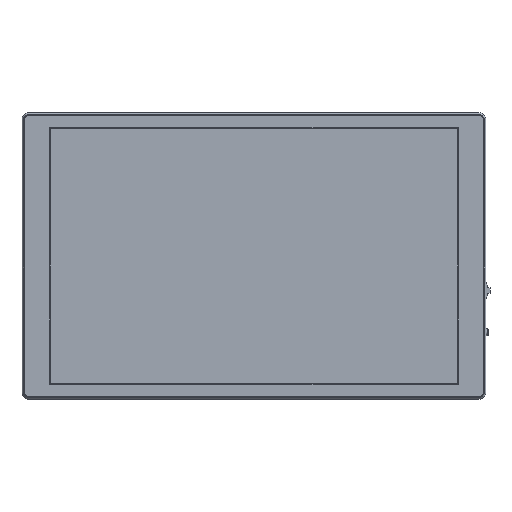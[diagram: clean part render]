
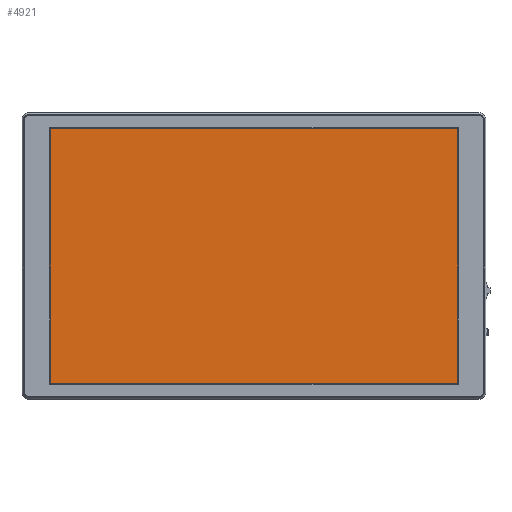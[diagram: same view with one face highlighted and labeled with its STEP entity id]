
A CAD part, top view. The second image highlights one B-rep face of the part: STEP entity #4921.
In plain terms, the highlighted planar face has unit normal (0, 0, 1).
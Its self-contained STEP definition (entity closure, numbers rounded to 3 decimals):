
#940=DIRECTION('',(0.,1.,0.));
#941=VECTOR('',#940,107.64);
#942=CARTESIAN_POINT('',(86.11,-53.82,-0.04));
#943=LINE('',#942,#941);
#944=DIRECTION('',(1.,0.,0.));
#945=VECTOR('',#944,172.22);
#946=CARTESIAN_POINT('',(-86.11,-53.82,-0.04));
#947=LINE('',#946,#945);
#948=DIRECTION('',(0.,-1.,0.));
#949=VECTOR('',#948,107.64);
#950=CARTESIAN_POINT('',(-86.11,53.82,-0.04));
#951=LINE('',#950,#949);
#952=DIRECTION('',(-1.,0.,0.));
#953=VECTOR('',#952,172.22);
#954=CARTESIAN_POINT('',(86.11,53.82,-0.04));
#955=LINE('',#954,#953);
#3806=CARTESIAN_POINT('',(86.11,-53.82,-0.04));
#3807=CARTESIAN_POINT('',(86.11,53.82,-0.04));
#3808=VERTEX_POINT('',#3806);
#3809=VERTEX_POINT('',#3807);
#3810=CARTESIAN_POINT('',(-86.11,53.82,-0.04));
#3811=VERTEX_POINT('',#3810);
#3812=CARTESIAN_POINT('',(-86.11,-53.82,-0.04));
#3813=VERTEX_POINT('',#3812);
#4910=CARTESIAN_POINT('',(0.,0.,-0.04));
#4911=DIRECTION('',(0.,0.,1.));
#4912=DIRECTION('',(1.,0.,0.));
#4913=AXIS2_PLACEMENT_3D('',#4910,#4911,#4912);
#4914=PLANE('',#4913);
#4915=ORIENTED_EDGE('',*,*,#4862,.F.);
#4916=ORIENTED_EDGE('',*,*,#4877,.F.);
#4917=ORIENTED_EDGE('',*,*,#4891,.F.);
#4918=ORIENTED_EDGE('',*,*,#4904,.F.);
#4919=EDGE_LOOP('',(#4915,#4916,#4917,#4918));
#4920=FACE_OUTER_BOUND('',#4919,.F.);
#4921=ADVANCED_FACE('',(#4920),#4914,.T.);
#4862=EDGE_CURVE('',#3808,#3809,#943,.T.);
#4877=EDGE_CURVE('',#3813,#3808,#947,.T.);
#4891=EDGE_CURVE('',#3811,#3813,#951,.T.);
#4904=EDGE_CURVE('',#3809,#3811,#955,.T.);
